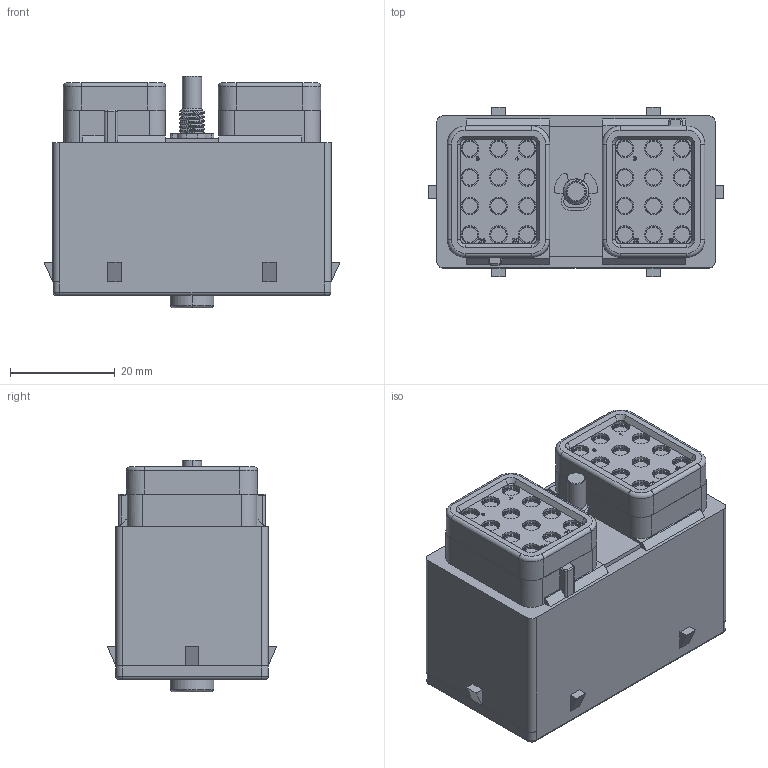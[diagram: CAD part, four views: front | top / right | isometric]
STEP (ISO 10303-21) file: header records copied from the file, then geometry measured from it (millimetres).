
FILE_DESCRIPTION((''),'2;1');
FILE_NAME('C-DRC16-24SAE','2013-05-28T',('workeradm'),('Tyco Electronics Ltd.'),'PRO/ENGINEER BY PARAMETRIC TECHNOLOGY CORPORATION, 2011490','PRO/ENGINEER BY PARAMETRIC TECHNOLOGY CORPORATION, 2011490','');
FILE_SCHEMA(('AUTOMOTIVE_DESIGN { 1 0 10303 214 1 1 1 1 }'));
Length unit declared in the file: millimetre
Products named in the file (1): C-DRC16-24SAE
Bounding box: 56.64 x 32.46 x 44.32 mm (x, y, z)
Volume: 53569.3 mm3; surface area: 11207.4 mm2
Topology: 1 solids, 1 shells, 1070 faces, 2605 edges, 1662 vertices
Faces by surface type: plane 591, cylinder 330, cone 66, bspline 57, torus 26
Entity records: 36226 total; most frequent: CARTESIAN_POINT 10332, DIRECTION 5421, ORIENTED_EDGE 5210, EDGE_CURVE 2605, AXIS2_PLACEMENT_3D 1848, VECTOR 1725, LINE 1725, VERTEX_POINT 1662
